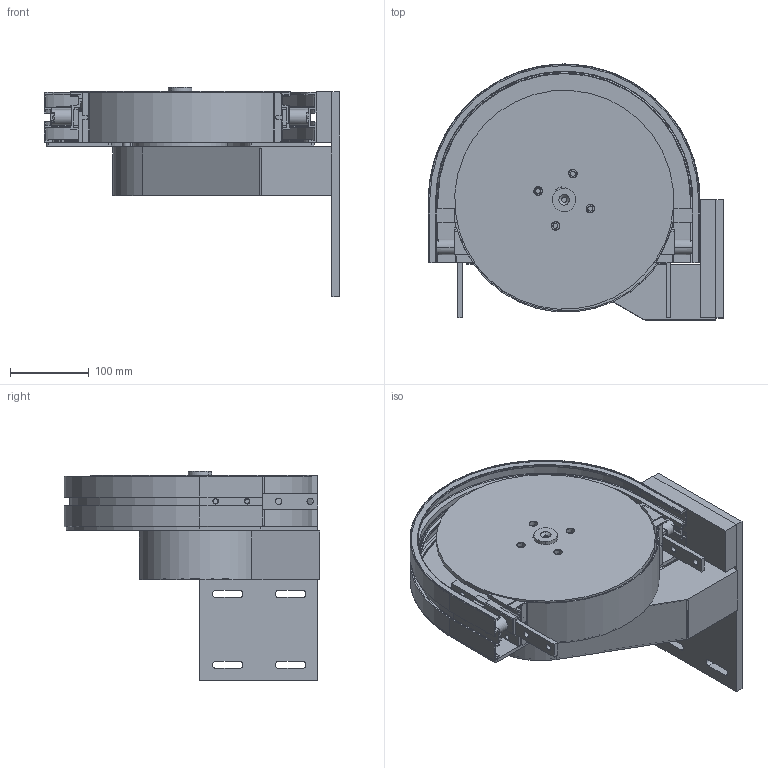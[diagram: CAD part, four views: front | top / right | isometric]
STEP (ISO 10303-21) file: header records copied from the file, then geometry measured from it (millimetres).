
FILE_DESCRIPTION (( 'STEP AP214' ), '1' );
FILE_NAME ('FKWD-SD.STEP', '2017-04-07T12:03:18', ( '' ), ( '' ), 'SwSTEP 2.0', 'SolidWorks 2016', '' );
FILE_SCHEMA (( 'AUTOMOTIVE_DESIGN' ));
Length unit declared in the file: millimetre
Products named in the file (1): FKWD-SD
Bounding box: 375 x 325 x 265.6 mm (x, y, z)
Volume: 2745869.8 mm3; surface area: 970062.2 mm2
Topology: 24 solids, 24 shells, 830 faces, 2191 edges, 1425 vertices
Faces by surface type: cylinder 390, plane 374, cone 43, bspline 23
Entity records: 37819 total; most frequent: CARTESIAN_POINT 7114, DIRECTION 4509, ORIENTED_EDGE 4382, EDGE_CURVE 2191, AXIS2_PLACEMENT_3D 1608, VERTEX_POINT 1425, VECTOR 1293, LINE 1293
